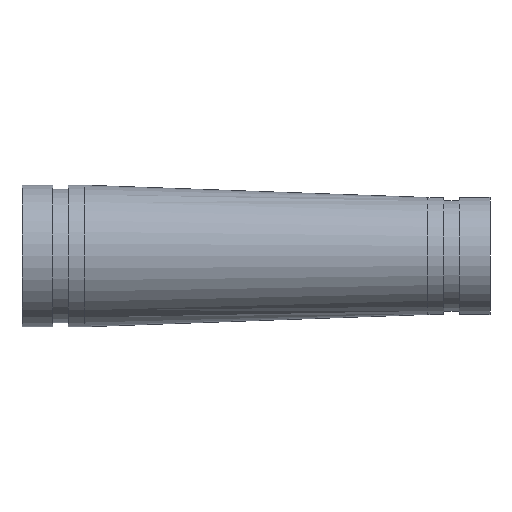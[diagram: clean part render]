
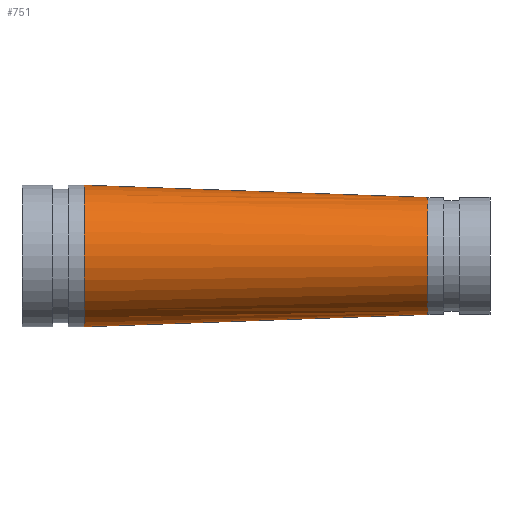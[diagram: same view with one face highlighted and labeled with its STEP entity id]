
A CAD part, front view. The second image highlights one B-rep face of the part: STEP entity #751.
In plain terms, the highlighted free-form (B-spline) face has degree [1, 2] with [2, 9] control points.
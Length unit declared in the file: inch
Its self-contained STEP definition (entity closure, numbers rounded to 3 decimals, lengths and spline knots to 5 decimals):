
#58=B_SPLINE_CURVE_WITH_KNOTS('',1,(#1409,#1410),.UNSPECIFIED.,.F.,.F.,
(2,2),(-4.86191,-0.00005),.UNSPECIFIED.);
#60=(
BOUNDED_SURFACE()
B_SPLINE_SURFACE(1,2,((#1387,#1388,#1389,#1390,#1391,#1392,#1393,#1394,
#1395),(#1396,#1397,#1398,#1399,#1400,#1401,#1402,#1403,#1404)),
 .UNSPECIFIED.,.F.,.T.,.F.)
B_SPLINE_SURFACE_WITH_KNOTS((2,2),(3,2,2,2,3),(-0.03858,4.89142),
(-3.14159,-1.5708,0.,1.5708,3.14159),
 .UNSPECIFIED.)
GEOMETRIC_REPRESENTATION_ITEM()
RATIONAL_B_SPLINE_SURFACE(((1.,0.707,1.,0.707,1.,
0.707,1.,0.707,1.),(1.,0.707,1.,0.707,
1.,0.707,1.,0.707,1.)))
REPRESENTATION_ITEM('')
SURFACE()
);
#128=FACE_OUTER_BOUND('',#160,.T.);
#160=EDGE_LOOP('',(#622,#623,#624,#625,#626,#627,#628));
#247=CIRCLE('',#870,1.1875);
#248=CIRCLE('',#871,1.4375);
#249=CIRCLE('',#872,1.4375);
#250=CIRCLE('',#873,1.1875);
#251=CIRCLE('',#874,1.1875);
#332=VERTEX_POINT('',#1405);
#333=VERTEX_POINT('',#1406);
#334=VERTEX_POINT('',#1408);
#335=VERTEX_POINT('',#1411);
#336=VERTEX_POINT('',#1414);
#436=EDGE_CURVE('',#332,#333,#247,.T.);
#437=EDGE_CURVE('',#333,#334,#58,.T.);
#438=EDGE_CURVE('',#334,#335,#248,.T.);
#439=EDGE_CURVE('',#335,#334,#249,.T.);
#440=EDGE_CURVE('',#333,#336,#250,.T.);
#441=EDGE_CURVE('',#336,#332,#251,.T.);
#622=ORIENTED_EDGE('',*,*,#436,.T.);
#623=ORIENTED_EDGE('',*,*,#437,.T.);
#624=ORIENTED_EDGE('',*,*,#438,.T.);
#625=ORIENTED_EDGE('',*,*,#439,.T.);
#626=ORIENTED_EDGE('',*,*,#437,.F.);
#627=ORIENTED_EDGE('',*,*,#440,.T.);
#628=ORIENTED_EDGE('',*,*,#441,.T.);
#751=ADVANCED_FACE('',(#128),#60,.F.);
#870=AXIS2_PLACEMENT_3D('',#1407,#1104,#1105);
#871=AXIS2_PLACEMENT_3D('',#1412,#1106,#1107);
#872=AXIS2_PLACEMENT_3D('',#1413,#1108,#1109);
#873=AXIS2_PLACEMENT_3D('',#1415,#1110,#1111);
#874=AXIS2_PLACEMENT_3D('',#1416,#1112,#1113);
#1104=DIRECTION('center_axis',(-1.,0.,0.));
#1105=DIRECTION('ref_axis',(0.,-1.,0.));
#1106=DIRECTION('center_axis',(1.,0.,0.));
#1107=DIRECTION('ref_axis',(0.,1.,0.));
#1108=DIRECTION('center_axis',(1.,0.,0.));
#1109=DIRECTION('ref_axis',(0.,1.,0.));
#1110=DIRECTION('center_axis',(-1.,0.,0.));
#1111=DIRECTION('ref_axis',(0.,-1.,0.));
#1112=DIRECTION('center_axis',(-1.,0.,0.));
#1113=DIRECTION('ref_axis',(0.,-1.,0.));
#1387=CARTESIAN_POINT('Ctrl Pts',(1.20455,0.00014,
1.43948));
#1388=CARTESIAN_POINT('Ctrl Pts',(1.15312,-1.4375,1.43948));
#1389=CARTESIAN_POINT('Ctrl Pts',(1.15312,-1.4375,0.));
#1390=CARTESIAN_POINT('Ctrl Pts',(1.15312,-1.4375,-1.43948));
#1391=CARTESIAN_POINT('Ctrl Pts',(1.20455,0.00014,
-1.43948));
#1392=CARTESIAN_POINT('Ctrl Pts',(1.25597,1.43779,-1.43948));
#1393=CARTESIAN_POINT('Ctrl Pts',(1.25597,1.43779,0.));
#1394=CARTESIAN_POINT('Ctrl Pts',(1.25597,1.43779,1.43948));
#1395=CARTESIAN_POINT('Ctrl Pts',(1.20455,0.00014,
1.43948));
#1396=CARTESIAN_POINT('Ctrl Pts',(8.28237,-0.25304,1.18598));
#1397=CARTESIAN_POINT('Ctrl Pts',(8.24,-1.4375,1.18598));
#1398=CARTESIAN_POINT('Ctrl Pts',(8.24,-1.4375,0.));
#1399=CARTESIAN_POINT('Ctrl Pts',(8.24,-1.4375,-1.18598));
#1400=CARTESIAN_POINT('Ctrl Pts',(8.28237,-0.25304,-1.18598));
#1401=CARTESIAN_POINT('Ctrl Pts',(8.32474,0.93143,-1.18598));
#1402=CARTESIAN_POINT('Ctrl Pts',(8.32474,0.93143,0.));
#1403=CARTESIAN_POINT('Ctrl Pts',(8.32474,0.93143,1.18598));
#1404=CARTESIAN_POINT('Ctrl Pts',(8.28237,-0.25304,1.18598));
#1405=CARTESIAN_POINT('',(8.24,-1.4375,0.));
#1406=CARTESIAN_POINT('',(8.24,-0.25152,1.1875));
#1407=CARTESIAN_POINT('Origin',(8.24,-0.25,0.));
#1408=CARTESIAN_POINT('',(1.26,-0.00184,1.4375));
#1409=CARTESIAN_POINT('Ctrl Pts',(8.24,-0.25152,1.1875));
#1410=CARTESIAN_POINT('Ctrl Pts',(1.26,-0.00184,1.4375));
#1411=CARTESIAN_POINT('',(1.26,-1.4375,0.));
#1412=CARTESIAN_POINT('Origin',(1.26,0.,0.));
#1413=CARTESIAN_POINT('Origin',(1.26,0.,0.));
#1414=CARTESIAN_POINT('',(8.24,0.9375,0.));
#1415=CARTESIAN_POINT('Origin',(8.24,-0.25,0.));
#1416=CARTESIAN_POINT('Origin',(8.24,-0.25,0.));
